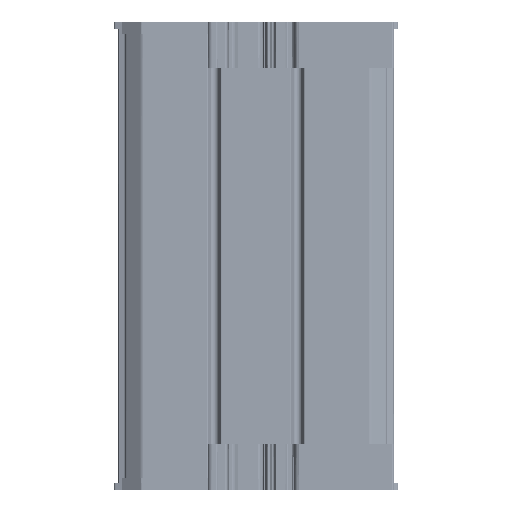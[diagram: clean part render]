
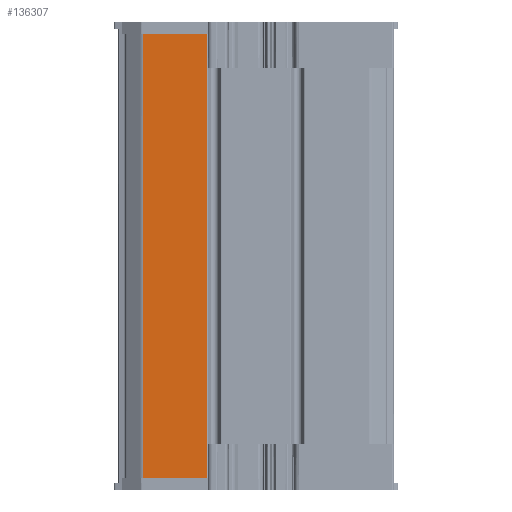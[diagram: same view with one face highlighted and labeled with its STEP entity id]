
A CAD part, front view. The second image highlights one B-rep face of the part: STEP entity #136307.
In plain terms, the highlighted planar face has unit normal (0, -1, 0).
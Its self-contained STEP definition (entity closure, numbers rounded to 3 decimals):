
#5155 = B_SPLINE_CURVE_WITH_KNOTS ( 'NONE', 3,
 ( #88260, #223063, #245752, #61071 ),
 .UNSPECIFIED., .F., .F.,
 ( 4, 4 ),
 ( 0., 1. ),
 .UNSPECIFIED. ) ;
#5720 = CARTESIAN_POINT ( 'NONE',  ( 10.849, 13.775, -100. ) ) ;
#14091 = EDGE_CURVE ( 'NONE', #247458, #120170, #171501, .T. ) ;
#31450 = LINE ( 'NONE', #5720, #242989 ) ;
#61071 = CARTESIAN_POINT ( 'NONE',  ( 10.849, 13.775, -3.8 ) ) ;
#71641 = CARTESIAN_POINT ( 'NONE',  ( 10.849, 13.775, -200. ) ) ;
#84895 = ORIENTED_EDGE ( 'NONE', *, *, #210318, .T. ) ;
#86186 = ORIENTED_EDGE ( 'NONE', *, *, #236962, .F. ) ;
#88260 = CARTESIAN_POINT ( 'NONE',  ( 38.343, 13.775, -3.8 ) ) ;
#112592 = CARTESIAN_POINT ( 'NONE',  ( 38.343, 13.775, -200. ) ) ;
#116278 = CARTESIAN_POINT ( 'NONE',  ( 38.343, 13.775, -3.8 ) ) ;
#120170 = VERTEX_POINT ( 'NONE', #144810 ) ;
#122551 = DIRECTION ( 'NONE',  ( 0., 0., 1. ) ) ;
#125039 = LINE ( 'NONE', #262865, #202577 ) ;
#136307 = ADVANCED_FACE ( 'NONE', ( #192210 ), #213444, .F. ) ;
#144810 = CARTESIAN_POINT ( 'NONE',  ( 10.849, 13.775, -200. ) ) ;
#150436 = EDGE_CURVE ( 'NONE', #200918, #247458, #125039, .T. ) ;
#163765 = VERTEX_POINT ( 'NONE', #254186 ) ;
#171501 = B_SPLINE_CURVE_WITH_KNOTS ( 'NONE', 3,
 ( #112592, #277605, #229178, #71641 ),
 .UNSPECIFIED., .F., .F.,
 ( 4, 4 ),
 ( 0., 1. ),
 .UNSPECIFIED. ) ;
#192210 = FACE_OUTER_BOUND ( 'NONE', #296864, .T. ) ;
#193367 = DIRECTION ( 'NONE',  ( 0., 0., 1. ) ) ;
#195623 = ORIENTED_EDGE ( 'NONE', *, *, #14091, .F. ) ;
#200918 = VERTEX_POINT ( 'NONE', #116278 ) ;
#202577 = VECTOR ( 'NONE', #265827, 1000. ) ;
#210318 = EDGE_CURVE ( 'NONE', #200918, #163765, #5155, .T. ) ;
#211955 = CARTESIAN_POINT ( 'NONE',  ( 24.596, 13.775, -100. ) ) ;
#213444 = PLANE ( 'NONE',  #276598 ) ;
#223063 = CARTESIAN_POINT ( 'NONE',  ( 29.178, 13.775, -3.8 ) ) ;
#229178 = CARTESIAN_POINT ( 'NONE',  ( 20.014, 13.775, -200. ) ) ;
#236962 = EDGE_CURVE ( 'NONE', #120170, #163765, #31450, .T. ) ;
#242989 = VECTOR ( 'NONE', #193367, 1000. ) ;
#245752 = CARTESIAN_POINT ( 'NONE',  ( 20.014, 13.775, -3.8 ) ) ;
#247458 = VERTEX_POINT ( 'NONE', #290523 ) ;
#254186 = CARTESIAN_POINT ( 'NONE',  ( 10.849, 13.775, -3.8 ) ) ;
#258830 = ORIENTED_EDGE ( 'NONE', *, *, #150436, .F. ) ;
#262865 = CARTESIAN_POINT ( 'NONE',  ( 38.343, 13.775, 0. ) ) ;
#265827 = DIRECTION ( 'NONE',  ( 0., 0., -1. ) ) ;
#276598 = AXIS2_PLACEMENT_3D ( 'NONE', #211955, #284577, #122551 ) ;
#277605 = CARTESIAN_POINT ( 'NONE',  ( 29.178, 13.775, -200. ) ) ;
#284577 = DIRECTION ( 'NONE',  ( 0., 1., 0. ) ) ;
#290523 = CARTESIAN_POINT ( 'NONE',  ( 38.343, 13.775, -200. ) ) ;
#296864 = EDGE_LOOP ( 'NONE', ( #84895, #86186, #195623, #258830 ) ) ;
